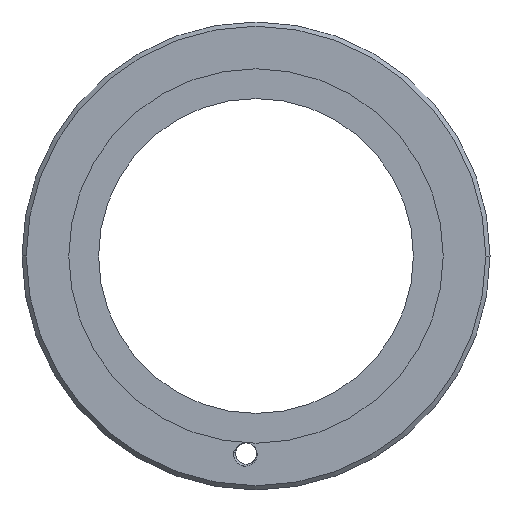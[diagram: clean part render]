
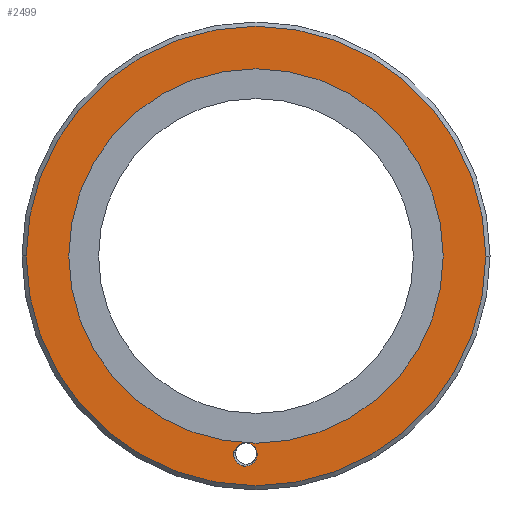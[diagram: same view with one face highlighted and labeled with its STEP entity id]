
A CAD part, front view. The second image highlights one B-rep face of the part: STEP entity #2499.
In plain terms, the highlighted planar face has unit normal (0, -1, 0).
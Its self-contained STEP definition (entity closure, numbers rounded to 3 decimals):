
#57=CARTESIAN_POINT('',(-115.653,0.634,82.418));
#58=DIRECTION('',(0.,1.,0.));
#59=DIRECTION('',(1.,0.,0.));
#60=AXIS2_PLACEMENT_3D('',#57,#58,#59);
#62=CARTESIAN_POINT('',(-115.653,0.634,82.418));
#63=DIRECTION('',(0.,1.,0.));
#64=DIRECTION('',(0.,0.,-1.));
#65=AXIS2_PLACEMENT_3D('',#62,#63,#64);
#67=CARTESIAN_POINT('',(-115.653,0.634,82.418));
#68=DIRECTION('',(0.,1.,0.));
#69=DIRECTION('',(-1.,0.,0.));
#70=AXIS2_PLACEMENT_3D('',#67,#68,#69);
#72=CARTESIAN_POINT('',(-115.653,0.634,82.418));
#73=DIRECTION('',(0.,1.,0.));
#74=DIRECTION('',(0.,0.,1.));
#75=AXIS2_PLACEMENT_3D('',#72,#73,#74);
#77=CARTESIAN_POINT('',(-115.653,0.634,82.418));
#78=DIRECTION('',(0.,-1.,0.));
#79=DIRECTION('',(1.,0.,0.));
#80=AXIS2_PLACEMENT_3D('',#77,#78,#79);
#82=CARTESIAN_POINT('',(-115.653,0.634,82.418));
#83=DIRECTION('',(0.,-1.,0.));
#84=DIRECTION('',(-1.,0.,0.));
#85=AXIS2_PLACEMENT_3D('',#82,#83,#84);
#87=CARTESIAN_POINT('',(-116.828,0.634,57.706));
#88=CARTESIAN_POINT('',(-116.698,0.634,57.716));
#89=CARTESIAN_POINT('',(-116.452,0.634,57.767));
#90=CARTESIAN_POINT('',(-116.115,0.634,57.933));
#91=CARTESIAN_POINT('',(-115.825,0.634,58.191));
#92=CARTESIAN_POINT('',(-115.629,0.634,58.501));
#93=CARTESIAN_POINT('',(-115.523,0.634,58.812));
#94=CARTESIAN_POINT('',(-115.504,0.634,59.203));
#95=CARTESIAN_POINT('',(-115.555,0.634,59.405));
#96=CARTESIAN_POINT('',(-115.59,0.634,59.502));
#98=CARTESIAN_POINT('',(-116.805,0.634,59.205));
#99=DIRECTION('',(0.,-1.,0.));
#100=DIRECTION('',(0.971,0.,0.238));
#101=AXIS2_PLACEMENT_3D('',#98,#99,#100);
#103=CARTESIAN_POINT('',(-116.805,0.634,59.205));
#104=DIRECTION('',(0.,-1.,0.));
#105=DIRECTION('',(0.,0.,1.));
#106=AXIS2_PLACEMENT_3D('',#103,#104,#105);
#108=CARTESIAN_POINT('',(-116.967,0.634,60.445));
#109=CARTESIAN_POINT('',(-117.086,0.634,60.442));
#110=CARTESIAN_POINT('',(-117.314,0.634,60.404));
#111=CARTESIAN_POINT('',(-117.632,0.634,60.259));
#112=CARTESIAN_POINT('',(-117.9,0.634,60.033));
#113=CARTESIAN_POINT('',(-118.107,0.634,59.746));
#114=CARTESIAN_POINT('',(-118.233,0.634,59.405));
#115=CARTESIAN_POINT('',(-118.275,0.634,59.034));
#116=CARTESIAN_POINT('',(-118.234,0.634,58.774));
#117=CARTESIAN_POINT('',(-118.194,0.634,58.641));
#119=CARTESIAN_POINT('',(-118.194,0.634,58.641));
#120=CARTESIAN_POINT('',(-118.149,0.634,58.53));
#121=CARTESIAN_POINT('',(-118.037,0.634,58.326));
#122=CARTESIAN_POINT('',(-117.799,0.634,58.064));
#123=CARTESIAN_POINT('',(-117.509,0.634,57.865));
#124=CARTESIAN_POINT('',(-117.178,0.634,57.739));
#125=CARTESIAN_POINT('',(-116.948,0.634,57.708));
#126=CARTESIAN_POINT('',(-116.828,0.634,57.706));
#2244=CARTESIAN_POINT('',(-135.719,0.634,
82.418));
#2245=VERTEX_POINT('',#2244);
#2246=CARTESIAN_POINT('',(-95.587,0.634,
82.418));
#2247=VERTEX_POINT('',#2246);
#2248=CARTESIAN_POINT('',(-115.653,0.634,
55.418));
#2249=CARTESIAN_POINT('',(-142.653,0.634,
82.418));
#2250=VERTEX_POINT('',#2248);
#2251=VERTEX_POINT('',#2249);
#2252=CARTESIAN_POINT('',(-88.653,0.634,
82.418));
#2253=VERTEX_POINT('',#2252);
#2254=CARTESIAN_POINT('',(-115.653,0.634,
109.418));
#2255=VERTEX_POINT('',#2254);
#2256=VERTEX_POINT('',#87);
#2257=VERTEX_POINT('',#96);
#2258=CARTESIAN_POINT('',(-116.805,0.634,
60.455));
#2259=CARTESIAN_POINT('',(-116.967,0.634,
60.445));
#2260=VERTEX_POINT('',#2258);
#2261=VERTEX_POINT('',#2259);
#2262=VERTEX_POINT('',#117);
#2468=CARTESIAN_POINT('',(0.,0.634,0.));
#2469=DIRECTION('',(0.,1.,0.));
#2470=DIRECTION('',(1.,0.,0.));
#2471=AXIS2_PLACEMENT_3D('',#2468,#2469,#2470);
#2472=PLANE('',#2471);
#2474=ORIENTED_EDGE('',*,*,#2473,.T.);
#2476=ORIENTED_EDGE('',*,*,#2475,.T.);
#2478=ORIENTED_EDGE('',*,*,#2477,.T.);
#2480=ORIENTED_EDGE('',*,*,#2479,.T.);
#2481=EDGE_LOOP('',(#2474,#2476,#2478,#2480));
#2482=FACE_OUTER_BOUND('',#2481,.F.);
#2483=ORIENTED_EDGE('',*,*,#2446,.T.);
#2484=ORIENTED_EDGE('',*,*,#2462,.T.);
#2485=EDGE_LOOP('',(#2483,#2484));
#2486=FACE_BOUND('',#2485,.F.);
#2488=ORIENTED_EDGE('',*,*,#2487,.T.);
#2490=ORIENTED_EDGE('',*,*,#2489,.T.);
#2492=ORIENTED_EDGE('',*,*,#2491,.T.);
#2494=ORIENTED_EDGE('',*,*,#2493,.T.);
#2496=ORIENTED_EDGE('',*,*,#2495,.T.);
#2497=EDGE_LOOP('',(#2488,#2490,#2492,#2494,#2496));
#2498=FACE_BOUND('',#2497,.F.);
#2499=ADVANCED_FACE('',(#2482,#2486,#2498),#2472,.F.);
#61=CIRCLE('',#60,27.);
#66=CIRCLE('',#65,27.);
#71=CIRCLE('',#70,27.);
#76=CIRCLE('',#75,27.);
#81=CIRCLE('',#80,20.066);
#86=CIRCLE('',#85,20.066);
#97=B_SPLINE_CURVE_WITH_KNOTS('',3,(#87,#88,#89,#90,#91,#92,#93,#94,#95,#96),
.UNSPECIFIED.,.F.,.F.,(4,1,1,1,1,1,1,4),(0.,0.143,
0.286,0.429,0.571,0.714,
0.857,1.),.UNSPECIFIED.);
#102=CIRCLE('',#101,1.25);
#107=CIRCLE('',#106,1.25);
#118=B_SPLINE_CURVE_WITH_KNOTS('',3,(#108,#109,#110,#111,#112,#113,#114,#115,
#116,#117),.UNSPECIFIED.,.F.,.F.,(4,1,1,1,1,1,1,4),(0.,0.143,
0.286,0.429,0.571,0.714,
0.857,1.),.UNSPECIFIED.);
#127=B_SPLINE_CURVE_WITH_KNOTS('',3,(#119,#120,#121,#122,#123,#124,#125,#126),
.UNSPECIFIED.,.F.,.F.,(4,1,1,1,1,4),(0.,0.2,0.4,0.6,0.8,1.),
.UNSPECIFIED.);
#2446=EDGE_CURVE('',#2247,#2245,#81,.T.);
#2462=EDGE_CURVE('',#2245,#2247,#86,.T.);
#2473=EDGE_CURVE('',#2253,#2250,#61,.T.);
#2475=EDGE_CURVE('',#2250,#2251,#66,.T.);
#2477=EDGE_CURVE('',#2251,#2255,#71,.T.);
#2479=EDGE_CURVE('',#2255,#2253,#76,.T.);
#2487=EDGE_CURVE('',#2256,#2257,#97,.T.);
#2489=EDGE_CURVE('',#2257,#2260,#102,.T.);
#2491=EDGE_CURVE('',#2260,#2261,#107,.T.);
#2493=EDGE_CURVE('',#2261,#2262,#118,.T.);
#2495=EDGE_CURVE('',#2262,#2256,#127,.T.);
